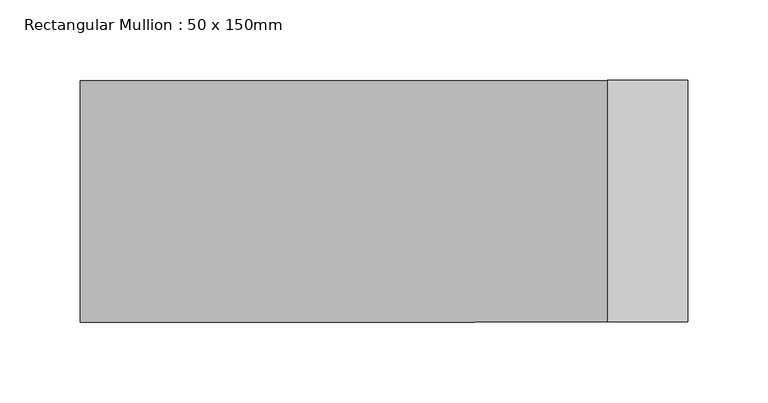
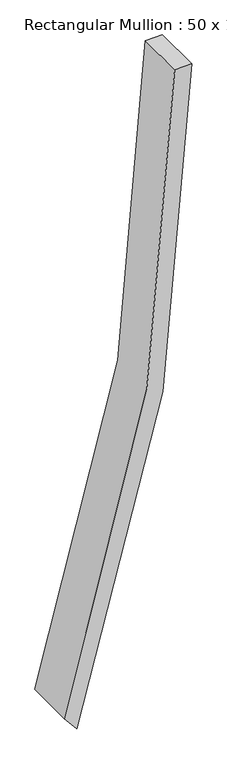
"""IFC4 building model written with IfcOpenShell, lengths in millimetres: member geometry, Rectangular Mullion : 50 x 150mm."""

from ifc_helpers import new_model, si_unit, point, frame, frame_2d, origin, place, context, project, spatial, polyline, circle_curve, trimmed, segment, composite_curve, outline, extrude, source, transform, mapped, element, save


def rectangular_mullion_50_x_150mm_bdb26e09(model_context):
    return source(origin(), model_context, "Body", "SweptSolid", [
        extrude(outline(composite_curve([segment(trimmed(circle_curve(frame_2d((0.0, -5826.7943099)), 5826.7943099), [point((-1962.7295132, -340.5182698))], [point((0.0, 0.0))], False, "CARTESIAN"), True, "CONTINUOUS"), segment(polyline([(0.0, 0.0), (0.0, -50.0)]), True, "CONTINUOUS"), segment(trimmed(circle_curve(frame_2d((0.0, -5826.7943099)), 5776.7943099), [point((0.0, -50.0))], [point((-1917.1496755, -377.4008005))], True, "CARTESIAN"), True, "CONTINUOUS"), segment(polyline([(-1917.1496755, -377.4008005), (-1962.7295132, -340.5182698)]), True, "CONTINUOUS")], self_intersect=False)), frame((0.0, -75.0, 0.0), z_axis=(0.0, 1.0, 0.0), x_axis=(0.0, 0.0, 1.0)), (0.0, 0.0, 1.0), 150.0),
    ])


if __name__ == "__main__":
    model = new_model("IFC4")
    model_context = context("Model", 3, world=origin())
    ifc_project = project(units=[si_unit("LENGTHUNIT", "METRE", prefix="MILLI")], contexts=[model_context])
    site = spatial("IfcSite", under=ifc_project)
    building = spatial("IfcBuilding", under=site)
    placement = place(None, origin())
    rectangular_mullion_50_x_150mm_shape = rectangular_mullion_50_x_150mm_bdb26e09(model_context)
    element("IfcMember", 1, ObjectType="Rectangular Mullion : 50 x 150mm", at=placement, inside=building, context=model_context, shape_type="MappedRepresentation", body=[
        mapped(rectangular_mullion_50_x_150mm_shape, transform((0.0, 0.0, 0.0), x_axis=(1.0, 0.0, 0.0), y_axis=(0.0, 1.0, 0.0), z_axis=(0.0, 0.0, 1.0))),
    ])
    save(model, "model.ifc")
